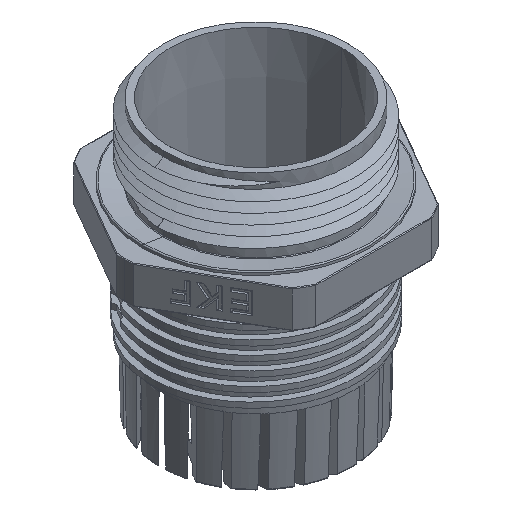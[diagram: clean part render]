
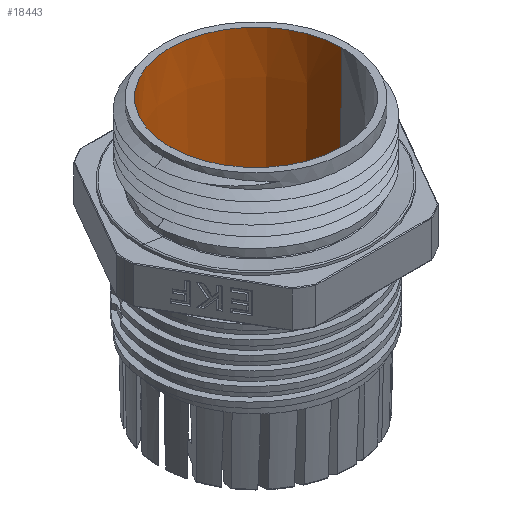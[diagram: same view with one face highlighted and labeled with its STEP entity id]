
A CAD part, isometric view. The second image highlights one B-rep face of the part: STEP entity #18443.
In plain terms, the highlighted conical face has half-angle 1 degrees and reference radius 12.75 mm.
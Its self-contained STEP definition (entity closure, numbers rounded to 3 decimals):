
#744 = ORIENTED_EDGE ( 'NONE', *, *, #23680, .F. ) ;
#1244 = CARTESIAN_POINT ( 'NONE',  ( -12.75, 0., 16.5 ) ) ;
#2236 = AXIS2_PLACEMENT_3D ( 'NONE', #16278, #19667, #12360 ) ;
#3773 = VECTOR ( 'NONE', #19413, 1000. ) ;
#4772 = FACE_OUTER_BOUND ( 'NONE', #21647, .T. ) ;
#5013 = DIRECTION ( 'NONE',  ( 1., 0., 0. ) ) ;
#5663 = ORIENTED_EDGE ( 'NONE', *, *, #22572, .F. ) ;
#6103 = CARTESIAN_POINT ( 'NONE',  ( 0., 0., -8.5 ) ) ;
#6235 = CARTESIAN_POINT ( 'NONE',  ( -12.75, 0., 16.5 ) ) ;
#7453 = CARTESIAN_POINT ( 'NONE',  ( 12.75, 0., 16.5 ) ) ;
#8039 = CIRCLE ( 'NONE', #11172, 12.314 ) ;
#9684 = CONICAL_SURFACE ( 'NONE', #2236, 12.75, 0.017 ) ;
#10891 = LINE ( 'NONE', #7453, #15414 ) ;
#11172 = AXIS2_PLACEMENT_3D ( 'NONE', #6103, #15767, #13567 ) ;
#11861 = ORIENTED_EDGE ( 'NONE', *, *, #14537, .T. ) ;
#12360 = DIRECTION ( 'NONE',  ( 1., 0., 0. ) ) ;
#13567 = DIRECTION ( 'NONE',  ( 1., 0., 0. ) ) ;
#14537 = EDGE_CURVE ( 'NONE', #19611, #16119, #10891, .T. ) ;
#14689 = CARTESIAN_POINT ( 'NONE',  ( 12.75, 0., 16.5 ) ) ;
#14914 = DIRECTION ( 'NONE',  ( 0.017, 0., 1. ) ) ;
#15414 = VECTOR ( 'NONE', #14914, 1000. ) ;
#15767 = DIRECTION ( 'NONE',  ( 0., 0., 1. ) ) ;
#15845 = ORIENTED_EDGE ( 'NONE', *, *, #22361, .T. ) ;
#16119 = VERTEX_POINT ( 'NONE', #14689 ) ;
#16274 = VERTEX_POINT ( 'NONE', #21598 ) ;
#16278 = CARTESIAN_POINT ( 'NONE',  ( 0., 0., 16.5 ) ) ;
#17733 = CARTESIAN_POINT ( 'NONE',  ( 12.314, 0., -8.5 ) ) ;
#18169 = CIRCLE ( 'NONE', #21262, 12.75 ) ;
#18443 = ADVANCED_FACE ( 'NONE', ( #4772 ), #9684, .F. ) ;
#19413 = DIRECTION ( 'NONE',  ( -0.017, 0., 1. ) ) ;
#19611 = VERTEX_POINT ( 'NONE', #17733 ) ;
#19619 = VERTEX_POINT ( 'NONE', #1244 ) ;
#19667 = DIRECTION ( 'NONE',  ( 0., 0., 1. ) ) ;
#21237 = LINE ( 'NONE', #6235, #3773 ) ;
#21262 = AXIS2_PLACEMENT_3D ( 'NONE', #23568, #21725, #5013 ) ;
#21598 = CARTESIAN_POINT ( 'NONE',  ( -12.314, 0., -8.5 ) ) ;
#21647 = EDGE_LOOP ( 'NONE', ( #744, #5663, #11861, #15845 ) ) ;
#21725 = DIRECTION ( 'NONE',  ( 0., 0., 1. ) ) ;
#22361 = EDGE_CURVE ( 'NONE', #16119, #19619, #18169, .T. ) ;
#22572 = EDGE_CURVE ( 'NONE', #19611, #16274, #8039, .T. ) ;
#23568 = CARTESIAN_POINT ( 'NONE',  ( 0., 0., 16.5 ) ) ;
#23680 = EDGE_CURVE ( 'NONE', #16274, #19619, #21237, .T. ) ;
